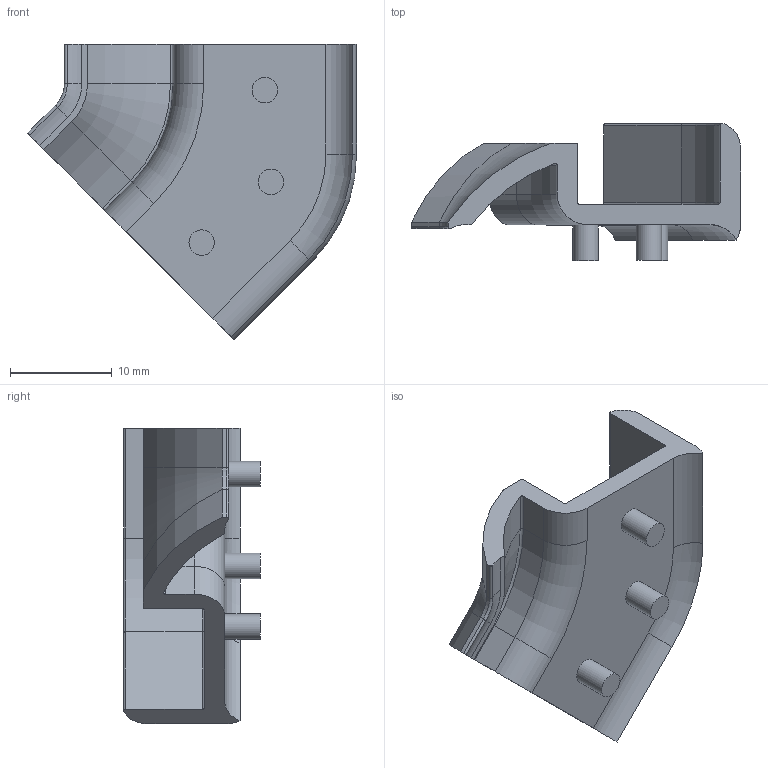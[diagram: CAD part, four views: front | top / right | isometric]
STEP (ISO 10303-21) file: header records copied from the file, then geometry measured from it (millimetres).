
FILE_DESCRIPTION (( 'STEP AP214' ), '1' );
FILE_NAME ('L15828.step', '2024-12-03T16:19:33', ( '' ), ( '' ), 'SwSTEP 2.0', 'SolidWorks 2023', '' );
FILE_SCHEMA (( 'AUTOMOTIVE_DESIGN' ));
Length unit declared in the file: millimetre
Products named in the file (1): L15828
Bounding box: 32.31 x 13.44 x 29.02 mm (x, y, z)
Volume: 2084.3 mm3; surface area: 2394 mm2
Topology: 1 solids, 1 shells, 69 faces, 162 edges, 98 vertices
Faces by surface type: cylinder 36, plane 19, torus 14
Full cylindrical faces by diameter (mm): 2.5 x3
Entity records: 1989 total; most frequent: DIRECTION 384, CARTESIAN_POINT 327, ORIENTED_EDGE 318, EDGE_CURVE 159, AXIS2_PLACEMENT_3D 155, VERTEX_POINT 98, CIRCLE 85, EDGE_LOOP 75
